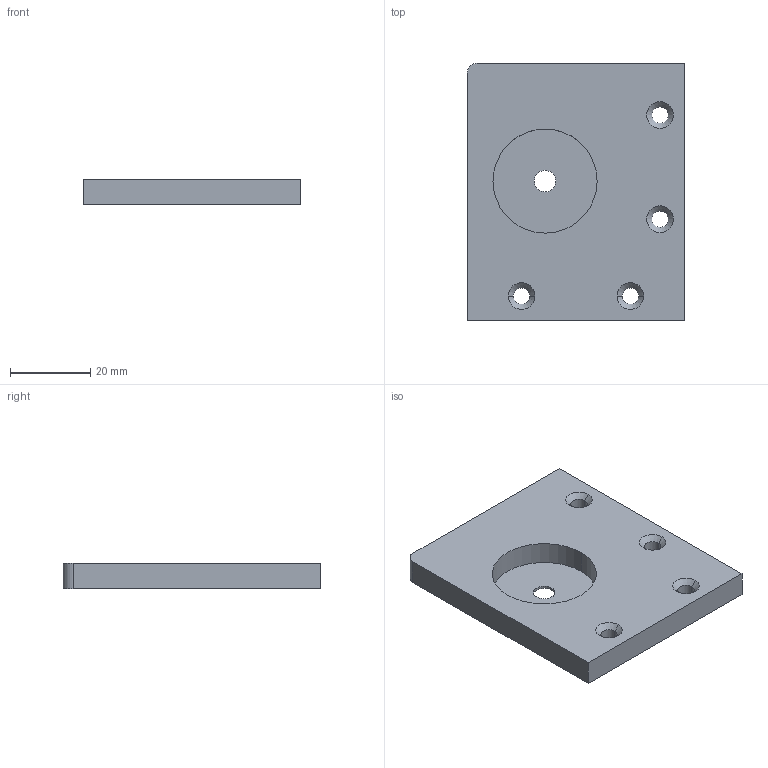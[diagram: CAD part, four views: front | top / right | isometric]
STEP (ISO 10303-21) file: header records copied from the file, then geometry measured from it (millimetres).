
FILE_DESCRIPTION (( 'STEP AP203' ), '1' );
FILE_NAME ('Section_D1.STEP', '2026-07-26T18:14:49', ( '' ), ( '' ), 'SwSTEP 2.0', 'SolidWorks 2024', '' );
FILE_SCHEMA (( 'CONFIG_CONTROL_DESIGN' ));
Length unit declared in the file: inch
Products named in the file (1): Section_D1
Bounding box: 54.19 x 64.17 x 6.35 mm (x, y, z)
Volume: 18658.2 mm3; surface area: 9070.3 mm2
Topology: 1 solids, 1 shells, 28 faces, 67 edges, 42 vertices
Faces by surface type: cylinder 13, cone 8, plane 7
Entity records: 920 total; most frequent: DIRECTION 159, CARTESIAN_POINT 138, ORIENTED_EDGE 134, EDGE_CURVE 67, AXIS2_PLACEMENT_3D 63, VERTEX_POINT 42, EDGE_LOOP 39, CIRCLE 34
